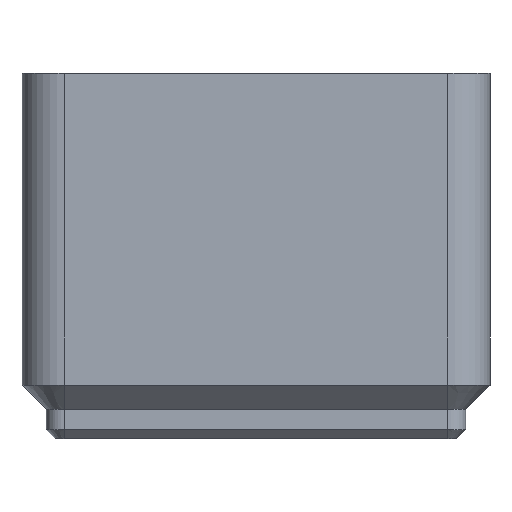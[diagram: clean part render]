
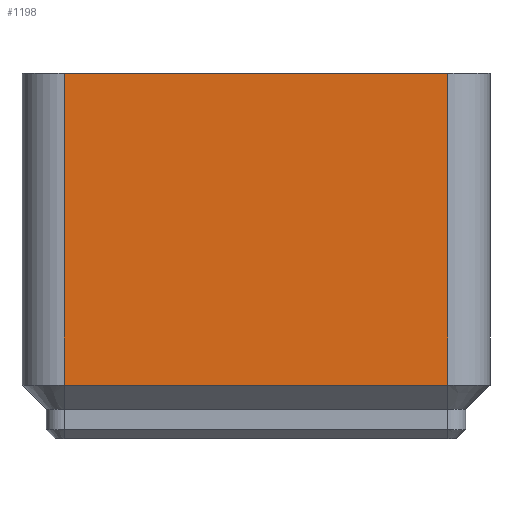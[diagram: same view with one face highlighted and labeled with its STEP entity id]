
A CAD part, left-side view. The second image highlights one B-rep face of the part: STEP entity #1198.
In plain terms, the highlighted planar face has unit normal (-1, 0, 0).
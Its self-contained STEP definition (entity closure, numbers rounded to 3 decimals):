
#416 = PLANE('',#417);
#417 = AXIS2_PLACEMENT_3D('',#418,#419,#420);
#418 = CARTESIAN_POINT('',(-20.75,0.,4.75));
#419 = DIRECTION('',(-0.707,0.,-0.707));
#420 = DIRECTION('',(0.,-1.,-0.));
#793 = VERTEX_POINT('',#794);
#794 = CARTESIAN_POINT('',(-20.75,-17.,4.75));
#812 = EDGE_CURVE('',#793,#813,#815,.T.);
#813 = VERTEX_POINT('',#814);
#814 = CARTESIAN_POINT('',(-20.75,17.,4.75));
#815 = SURFACE_CURVE('',#816,(#820,#827),.PCURVE_S1.);
#816 = LINE('',#817,#818);
#817 = CARTESIAN_POINT('',(-20.75,0.,4.75));
#818 = VECTOR('',#819,1.);
#819 = DIRECTION('',(0.,1.,0.));
#820 = PCURVE('',#416,#821);
#821 = DEFINITIONAL_REPRESENTATION('',(#822),#826);
#822 = LINE('',#823,#824);
#823 = CARTESIAN_POINT('',(0.,0.));
#824 = VECTOR('',#825,1.);
#825 = DIRECTION('',(-1.,0.));
#826 = ( GEOMETRIC_REPRESENTATION_CONTEXT(2) 
PARAMETRIC_REPRESENTATION_CONTEXT() REPRESENTATION_CONTEXT('2D SPACE',''
  ) );
#827 = PCURVE('',#828,#833);
#828 = PLANE('',#829);
#829 = AXIS2_PLACEMENT_3D('',#830,#831,#832);
#830 = CARTESIAN_POINT('',(-20.75,-17.,4.75));
#831 = DIRECTION('',(-1.,0.,0.));
#832 = DIRECTION('',(0.,1.,0.));
#833 = DEFINITIONAL_REPRESENTATION('',(#834),#838);
#834 = LINE('',#835,#836);
#835 = CARTESIAN_POINT('',(17.,0.));
#836 = VECTOR('',#837,1.);
#837 = DIRECTION('',(1.,0.));
#838 = ( GEOMETRIC_REPRESENTATION_CONTEXT(2) 
PARAMETRIC_REPRESENTATION_CONTEXT() REPRESENTATION_CONTEXT('2D SPACE',''
  ) );
#1187 = CYLINDRICAL_SURFACE('',#1188,3.75);
#1188 = AXIS2_PLACEMENT_3D('',#1189,#1190,#1191);
#1189 = CARTESIAN_POINT('',(-17.,-17.,4.75));
#1190 = DIRECTION('',(0.,0.,-1.));
#1191 = DIRECTION('',(-1.,0.,0.));
#1198 = ADVANCED_FACE('',(#1199),#828,.T.);
#1199 = FACE_BOUND('',#1200,.T.);
#1200 = EDGE_LOOP('',(#1201,#1224,#1252,#1278));
#1201 = ORIENTED_EDGE('',*,*,#1202,.T.);
#1202 = EDGE_CURVE('',#793,#1203,#1205,.T.);
#1203 = VERTEX_POINT('',#1204);
#1204 = CARTESIAN_POINT('',(-20.75,-17.,32.4));
#1205 = SURFACE_CURVE('',#1206,(#1210,#1217),.PCURVE_S1.);
#1206 = LINE('',#1207,#1208);
#1207 = CARTESIAN_POINT('',(-20.75,-17.,4.75));
#1208 = VECTOR('',#1209,1.);
#1209 = DIRECTION('',(0.,0.,1.));
#1210 = PCURVE('',#828,#1211);
#1211 = DEFINITIONAL_REPRESENTATION('',(#1212),#1216);
#1212 = LINE('',#1213,#1214);
#1213 = CARTESIAN_POINT('',(0.,0.));
#1214 = VECTOR('',#1215,1.);
#1215 = DIRECTION('',(0.,-1.));
#1216 = ( GEOMETRIC_REPRESENTATION_CONTEXT(2) 
PARAMETRIC_REPRESENTATION_CONTEXT() REPRESENTATION_CONTEXT('2D SPACE',''
  ) );
#1217 = PCURVE('',#1187,#1218);
#1218 = DEFINITIONAL_REPRESENTATION('',(#1219),#1223);
#1219 = LINE('',#1220,#1221);
#1220 = CARTESIAN_POINT('',(6.283,0.));
#1221 = VECTOR('',#1222,1.);
#1222 = DIRECTION('',(0.,-1.));
#1223 = ( GEOMETRIC_REPRESENTATION_CONTEXT(2) 
PARAMETRIC_REPRESENTATION_CONTEXT() REPRESENTATION_CONTEXT('2D SPACE',''
  ) );
#1224 = ORIENTED_EDGE('',*,*,#1225,.T.);
#1225 = EDGE_CURVE('',#1203,#1226,#1228,.T.);
#1226 = VERTEX_POINT('',#1227);
#1227 = CARTESIAN_POINT('',(-20.75,17.,32.4));
#1228 = SURFACE_CURVE('',#1229,(#1233,#1240),.PCURVE_S1.);
#1229 = LINE('',#1230,#1231);
#1230 = CARTESIAN_POINT('',(-20.75,0.,32.4));
#1231 = VECTOR('',#1232,1.);
#1232 = DIRECTION('',(0.,1.,0.));
#1233 = PCURVE('',#828,#1234);
#1234 = DEFINITIONAL_REPRESENTATION('',(#1235),#1239);
#1235 = LINE('',#1236,#1237);
#1236 = CARTESIAN_POINT('',(17.,-27.65));
#1237 = VECTOR('',#1238,1.);
#1238 = DIRECTION('',(1.,0.));
#1239 = ( GEOMETRIC_REPRESENTATION_CONTEXT(2) 
PARAMETRIC_REPRESENTATION_CONTEXT() REPRESENTATION_CONTEXT('2D SPACE',''
  ) );
#1240 = PCURVE('',#1241,#1246);
#1241 = PLANE('',#1242);
#1242 = AXIS2_PLACEMENT_3D('',#1243,#1244,#1245);
#1243 = CARTESIAN_POINT('',(0.,0.,32.4)
  );
#1244 = DIRECTION('',(0.,0.,1.));
#1245 = DIRECTION('',(1.,0.,0.));
#1246 = DEFINITIONAL_REPRESENTATION('',(#1247),#1251);
#1247 = LINE('',#1248,#1249);
#1248 = CARTESIAN_POINT('',(-20.75,0.));
#1249 = VECTOR('',#1250,1.);
#1250 = DIRECTION('',(0.,1.));
#1251 = ( GEOMETRIC_REPRESENTATION_CONTEXT(2) 
PARAMETRIC_REPRESENTATION_CONTEXT() REPRESENTATION_CONTEXT('2D SPACE',''
  ) );
#1252 = ORIENTED_EDGE('',*,*,#1253,.F.);
#1253 = EDGE_CURVE('',#813,#1226,#1254,.T.);
#1254 = SURFACE_CURVE('',#1255,(#1259,#1266),.PCURVE_S1.);
#1255 = LINE('',#1256,#1257);
#1256 = CARTESIAN_POINT('',(-20.75,17.,4.75));
#1257 = VECTOR('',#1258,1.);
#1258 = DIRECTION('',(0.,0.,1.));
#1259 = PCURVE('',#828,#1260);
#1260 = DEFINITIONAL_REPRESENTATION('',(#1261),#1265);
#1261 = LINE('',#1262,#1263);
#1262 = CARTESIAN_POINT('',(34.,0.));
#1263 = VECTOR('',#1264,1.);
#1264 = DIRECTION('',(0.,-1.));
#1265 = ( GEOMETRIC_REPRESENTATION_CONTEXT(2) 
PARAMETRIC_REPRESENTATION_CONTEXT() REPRESENTATION_CONTEXT('2D SPACE',''
  ) );
#1266 = PCURVE('',#1267,#1272);
#1267 = CYLINDRICAL_SURFACE('',#1268,3.75);
#1268 = AXIS2_PLACEMENT_3D('',#1269,#1270,#1271);
#1269 = CARTESIAN_POINT('',(-17.,17.,4.75));
#1270 = DIRECTION('',(0.,0.,-1.));
#1271 = DIRECTION('',(-1.,0.,0.));
#1272 = DEFINITIONAL_REPRESENTATION('',(#1273),#1277);
#1273 = LINE('',#1274,#1275);
#1274 = CARTESIAN_POINT('',(0.,0.));
#1275 = VECTOR('',#1276,1.);
#1276 = DIRECTION('',(0.,-1.));
#1277 = ( GEOMETRIC_REPRESENTATION_CONTEXT(2) 
PARAMETRIC_REPRESENTATION_CONTEXT() REPRESENTATION_CONTEXT('2D SPACE',''
  ) );
#1278 = ORIENTED_EDGE('',*,*,#812,.F.);
